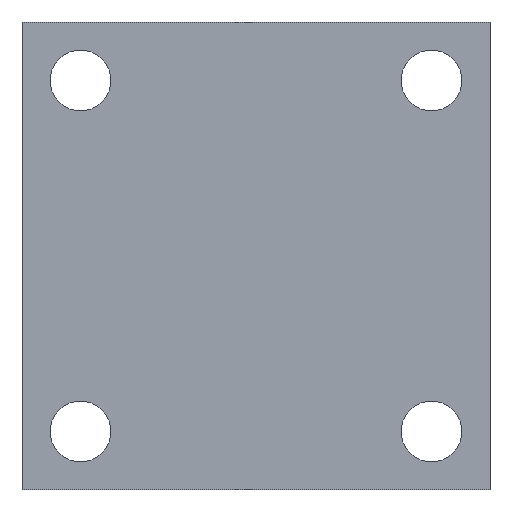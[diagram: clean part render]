
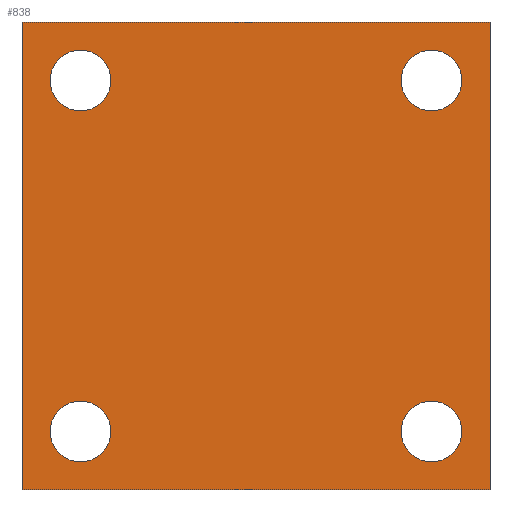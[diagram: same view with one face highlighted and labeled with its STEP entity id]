
A CAD part, front view. The second image highlights one B-rep face of the part: STEP entity #838.
In plain terms, the highlighted planar face has unit normal (0, -1, 0).
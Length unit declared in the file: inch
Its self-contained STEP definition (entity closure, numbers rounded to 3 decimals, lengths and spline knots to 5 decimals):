
#325=CARTESIAN_POINT('',(10.58483,-1.06664,2.03247));
#326=VERTEX_POINT('',#325);
#327=CARTESIAN_POINT('',(10.77983,-1.06664,2.03247));
#328=DIRECTION('',(0.0,1.0,0.0));
#329=DIRECTION('',(1.0,0.0,0.0));
#330=AXIS2_PLACEMENT_3D('',#327,#328,#329);
#331=CIRCLE('',#330,0.195);
#332=EDGE_CURVE('',#326,#326,#331,.T.);
#353=CARTESIAN_POINT('',(8.33483,-1.06664,-0.21753));
#354=VERTEX_POINT('',#353);
#355=CARTESIAN_POINT('',(8.52983,-1.06664,-0.21753));
#356=DIRECTION('',(0.0,1.0,0.0));
#357=DIRECTION('',(1.0,0.0,0.0));
#358=AXIS2_PLACEMENT_3D('',#355,#356,#357);
#359=CIRCLE('',#358,0.195);
#360=EDGE_CURVE('',#354,#354,#359,.T.);
#381=CARTESIAN_POINT('',(10.58483,-1.06664,-0.21753));
#382=VERTEX_POINT('',#381);
#383=CARTESIAN_POINT('',(10.77983,-1.06664,-0.21753));
#384=DIRECTION('',(0.0,1.0,0.0));
#385=DIRECTION('',(1.0,0.0,0.0));
#386=AXIS2_PLACEMENT_3D('',#383,#384,#385);
#387=CIRCLE('',#386,0.195);
#388=EDGE_CURVE('',#382,#382,#387,.T.);
#409=CARTESIAN_POINT('',(8.33483,-1.06664,2.03247));
#410=VERTEX_POINT('',#409);
#411=CARTESIAN_POINT('',(8.52983,-1.06664,2.03247));
#412=DIRECTION('',(0.0,1.0,0.0));
#413=DIRECTION('',(1.0,0.0,0.0));
#414=AXIS2_PLACEMENT_3D('',#411,#412,#413);
#415=CIRCLE('',#414,0.195);
#416=EDGE_CURVE('',#410,#410,#415,.T.);
#439=CARTESIAN_POINT('',(8.15483,-1.06664,2.40747));
#440=VERTEX_POINT('',#439);
#447=CARTESIAN_POINT('',(11.15483,-1.06664,2.40747));
#448=VERTEX_POINT('',#447);
#449=CARTESIAN_POINT('',(8.15483,-1.06664,2.40747));
#450=DIRECTION('',(1.0,0.0,0.0));
#451=VECTOR('',#450,3.);
#452=LINE('',#449,#451);
#453=EDGE_CURVE('',#440,#448,#452,.T.);
#684=CARTESIAN_POINT('',(8.15483,-1.06664,-0.59253));
#685=VERTEX_POINT('',#684);
#702=CARTESIAN_POINT('',(11.15483,-1.06664,-0.59253));
#703=VERTEX_POINT('',#702);
#710=CARTESIAN_POINT('',(11.15483,-1.06664,-0.59253));
#711=DIRECTION('',(-1.0,0.0,0.0));
#712=VECTOR('',#711,3.);
#713=LINE('',#710,#712);
#714=EDGE_CURVE('',#703,#685,#713,.T.);
#794=CARTESIAN_POINT('',(8.15483,-1.06664,-0.59253));
#795=DIRECTION('',(0.0,0.0,1.0));
#796=VECTOR('',#795,3.);
#797=LINE('',#794,#796);
#798=EDGE_CURVE('',#685,#440,#797,.T.);
#810=CARTESIAN_POINT('',(11.15483,-1.06664,-2.09253));
#811=DIRECTION('',(0.0,-1.0,0.0));
#812=DIRECTION('',(0.0,0.0,-1.0));
#813=AXIS2_PLACEMENT_3D('',#810,#811,#812);
#814=PLANE('',#813);
#815=ORIENTED_EDGE('',*,*,#714,.F.);
#816=CARTESIAN_POINT('',(11.15483,-1.06664,-0.59253));
#817=DIRECTION('',(0.0,0.0,1.0));
#818=VECTOR('',#817,3.);
#819=LINE('',#816,#818);
#820=EDGE_CURVE('',#703,#448,#819,.T.);
#821=ORIENTED_EDGE('',*,*,#820,.T.);
#822=ORIENTED_EDGE('',*,*,#453,.F.);
#823=ORIENTED_EDGE('',*,*,#798,.F.);
#824=EDGE_LOOP('',(#815,#821,#822,#823));
#825=FACE_OUTER_BOUND('',#824,.T.);
#826=ORIENTED_EDGE('',*,*,#332,.T.);
#827=EDGE_LOOP('',(#826));
#828=FACE_BOUND('',#827,.T.);
#829=ORIENTED_EDGE('',*,*,#360,.T.);
#830=EDGE_LOOP('',(#829));
#831=FACE_BOUND('',#830,.T.);
#832=ORIENTED_EDGE('',*,*,#388,.T.);
#833=EDGE_LOOP('',(#832));
#834=FACE_BOUND('',#833,.T.);
#835=ORIENTED_EDGE('',*,*,#416,.T.);
#836=EDGE_LOOP('',(#835));
#837=FACE_BOUND('',#836,.T.);
#838=ADVANCED_FACE('',(#825,#828,#831,#834,#837),#814,.T.);
